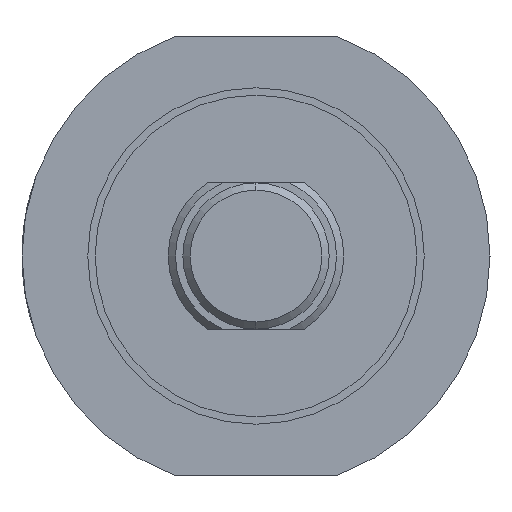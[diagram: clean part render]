
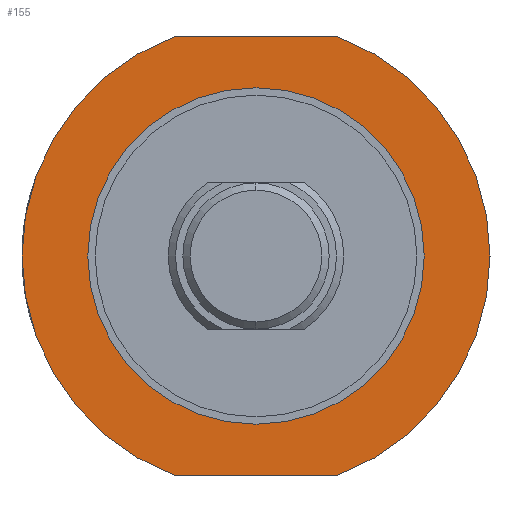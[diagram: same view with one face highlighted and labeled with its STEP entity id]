
A CAD part, left-side view. The second image highlights one B-rep face of the part: STEP entity #155.
In plain terms, the highlighted planar face has unit normal (-1, 0, 0).
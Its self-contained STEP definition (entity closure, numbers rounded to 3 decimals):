
#56 = FACE_BOUND ( 'NONE', #1681, .T. ) ;
#77 = CARTESIAN_POINT ( 'NONE',  ( 42., 0., 0. ) ) ;
#94 = DIRECTION ( 'NONE',  ( 0., 0., 1. ) ) ;
#104 = PLANE ( 'NONE',  #1232 ) ;
#155 = ADVANCED_FACE ( 'NONE', ( #56, #955 ), #104, .F. ) ;
#156 = DIRECTION ( 'NONE',  ( 0., 1., 0. ) ) ;
#196 = LINE ( 'NONE', #1663, #1593 ) ;
#198 = AXIS2_PLACEMENT_3D ( 'NONE', #77, #1486, #94 ) ;
#262 = CIRCLE ( 'NONE', #759, 16. ) ;
#285 = AXIS2_PLACEMENT_3D ( 'NONE', #855, #289, #1648 ) ;
#289 = DIRECTION ( 'NONE',  ( -1., 0., 0. ) ) ;
#357 = CIRCLE ( 'NONE', #1200, 11.5 ) ;
#368 = VERTEX_POINT ( 'NONE', #476 ) ;
#423 = ORIENTED_EDGE ( 'NONE', *, *, #1392, .T. ) ;
#437 = CARTESIAN_POINT ( 'NONE',  ( 42., -5.568, 15. ) ) ;
#448 = EDGE_CURVE ( 'NONE', #1399, #1691, #196, .T. ) ;
#450 = DIRECTION ( 'NONE',  ( 0., 0., 1. ) ) ;
#476 = CARTESIAN_POINT ( 'NONE',  ( 42., 0., 11.5 ) ) ;
#524 = LINE ( 'NONE', #1551, #1363 ) ;
#646 = DIRECTION ( 'NONE',  ( -1., 0., 0. ) ) ;
#674 = CARTESIAN_POINT ( 'NONE',  ( 42., 0., -11.5 ) ) ;
#688 = CARTESIAN_POINT ( 'NONE',  ( 42., 0., 0. ) ) ;
#706 = CIRCLE ( 'NONE', #285, 16. ) ;
#707 = VERTEX_POINT ( 'NONE', #915 ) ;
#739 = ORIENTED_EDGE ( 'NONE', *, *, #1082, .F. ) ;
#744 = ORIENTED_EDGE ( 'NONE', *, *, #1344, .F. ) ;
#759 = AXIS2_PLACEMENT_3D ( 'NONE', #1352, #646, #450 ) ;
#822 = VERTEX_POINT ( 'NONE', #674 ) ;
#855 = CARTESIAN_POINT ( 'NONE',  ( 42., 0., 0. ) ) ;
#909 = DIRECTION ( 'NONE',  ( 0., 0., 1. ) ) ;
#915 = CARTESIAN_POINT ( 'NONE',  ( 42., 5.568, 15. ) ) ;
#955 = FACE_OUTER_BOUND ( 'NONE', #1307, .T. ) ;
#1082 = EDGE_CURVE ( 'NONE', #822, #368, #1679, .T. ) ;
#1132 = DIRECTION ( 'NONE',  ( 1., 0., 0. ) ) ;
#1200 = AXIS2_PLACEMENT_3D ( 'NONE', #688, #1654, #909 ) ;
#1208 = CARTESIAN_POINT ( 'NONE',  ( 42., -5.568, -15. ) ) ;
#1227 = ORIENTED_EDGE ( 'NONE', *, *, #1578, .T. ) ;
#1232 = AXIS2_PLACEMENT_3D ( 'NONE', #1292, #1132, #1319 ) ;
#1292 = CARTESIAN_POINT ( 'NONE',  ( 42., 0., -16. ) ) ;
#1307 = EDGE_LOOP ( 'NONE', ( #1227, #1678, #423, #1340 ) ) ;
#1319 = DIRECTION ( 'NONE',  ( 0., 0., -1. ) ) ;
#1336 = CARTESIAN_POINT ( 'NONE',  ( 42., 5.568, -15. ) ) ;
#1340 = ORIENTED_EDGE ( 'NONE', *, *, #1428, .F. ) ;
#1344 = EDGE_CURVE ( 'NONE', #368, #822, #357, .T. ) ;
#1352 = CARTESIAN_POINT ( 'NONE',  ( 42., 0., 0. ) ) ;
#1363 = VECTOR ( 'NONE', #1574, 1000. ) ;
#1392 = EDGE_CURVE ( 'NONE', #1399, #1689, #262, .T. ) ;
#1399 = VERTEX_POINT ( 'NONE', #1208 ) ;
#1428 = EDGE_CURVE ( 'NONE', #707, #1689, #524, .T. ) ;
#1486 = DIRECTION ( 'NONE',  ( -1., 0., 0. ) ) ;
#1551 = CARTESIAN_POINT ( 'NONE',  ( 42., 11.874, 15. ) ) ;
#1574 = DIRECTION ( 'NONE',  ( 0., -1., 0. ) ) ;
#1578 = EDGE_CURVE ( 'NONE', #707, #1691, #706, .T. ) ;
#1593 = VECTOR ( 'NONE', #156, 1000. ) ;
#1648 = DIRECTION ( 'NONE',  ( 0., 0., 1. ) ) ;
#1654 = DIRECTION ( 'NONE',  ( -1., 0., 0. ) ) ;
#1663 = CARTESIAN_POINT ( 'NONE',  ( 42., 11.874, -15. ) ) ;
#1678 = ORIENTED_EDGE ( 'NONE', *, *, #448, .F. ) ;
#1679 = CIRCLE ( 'NONE', #198, 11.5 ) ;
#1681 = EDGE_LOOP ( 'NONE', ( #744, #739 ) ) ;
#1689 = VERTEX_POINT ( 'NONE', #437 ) ;
#1691 = VERTEX_POINT ( 'NONE', #1336 ) ;
